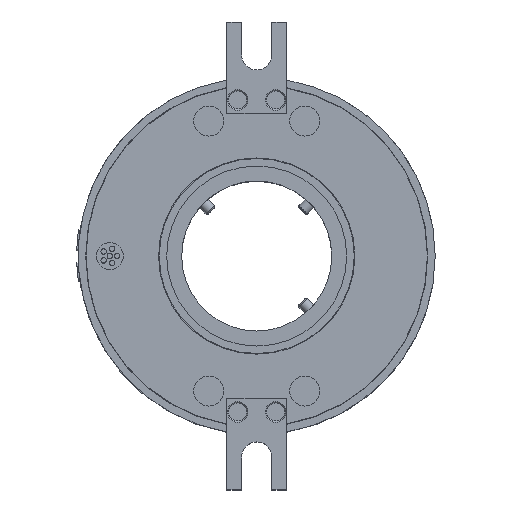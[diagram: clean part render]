
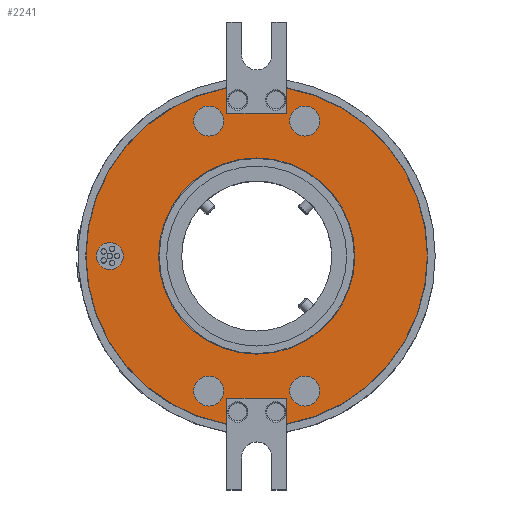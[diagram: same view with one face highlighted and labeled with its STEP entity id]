
A CAD part, top view. The second image highlights one B-rep face of the part: STEP entity #2241.
In plain terms, the highlighted planar face has unit normal (0, 0, 1).
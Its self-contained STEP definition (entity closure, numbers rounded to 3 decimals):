
#208=FACE_BOUND('',#4000,.T.);
#209=FACE_BOUND('',#4001,.T.);
#210=FACE_BOUND('',#4002,.T.);
#211=FACE_BOUND('',#4003,.T.);
#212=FACE_BOUND('',#4004,.T.);
#213=FACE_BOUND('',#4005,.T.);
#214=FACE_BOUND('',#4006,.T.);
#500=CIRCLE('',#13488,56.9);
#501=CIRCLE('',#13489,56.9);
#502=CIRCLE('',#13490,32.7);
#503=CIRCLE('',#13491,5.);
#504=CIRCLE('',#13492,5.);
#505=CIRCLE('',#13493,4.5);
#506=CIRCLE('',#13494,5.);
#507=CIRCLE('',#13495,5.);
#1055=LINE('',#25105,#1565);
#1056=LINE('',#25108,#1566);
#1057=LINE('',#25110,#1567);
#1058=LINE('',#25114,#1568);
#1059=LINE('',#25116,#1569);
#1060=LINE('',#25118,#1570);
#1565=VECTOR('',#14940,1.);
#1566=VECTOR('',#14941,1.);
#1567=VECTOR('',#14942,1.);
#1568=VECTOR('',#14945,1.);
#1569=VECTOR('',#14946,1.);
#1570=VECTOR('',#14947,1.);
#2241=ADVANCED_FACE('',(#208,#209,#210,#211,#212,#213,#214),#2747,.T.);
#2747=PLANE('',#13496);
#4000=EDGE_LOOP('',(#6768,#6769,#6770,#6771,#6772,#6773,#6774,#6775));
#4001=EDGE_LOOP('',(#6776));
#4002=EDGE_LOOP('',(#6777));
#4003=EDGE_LOOP('',(#6778));
#4004=EDGE_LOOP('',(#6779));
#4005=EDGE_LOOP('',(#6780));
#4006=EDGE_LOOP('',(#6781));
#6768=ORIENTED_EDGE('',*,*,#10951,.F.);
#6769=ORIENTED_EDGE('',*,*,#10952,.F.);
#6770=ORIENTED_EDGE('',*,*,#10953,.F.);
#6771=ORIENTED_EDGE('',*,*,#10954,.F.);
#6772=ORIENTED_EDGE('',*,*,#10955,.F.);
#6773=ORIENTED_EDGE('',*,*,#10956,.F.);
#6774=ORIENTED_EDGE('',*,*,#10957,.F.);
#6775=ORIENTED_EDGE('',*,*,#10958,.F.);
#6776=ORIENTED_EDGE('',*,*,#10959,.F.);
#6777=ORIENTED_EDGE('',*,*,#10960,.T.);
#6778=ORIENTED_EDGE('',*,*,#10961,.T.);
#6779=ORIENTED_EDGE('',*,*,#10962,.T.);
#6780=ORIENTED_EDGE('',*,*,#10963,.T.);
#6781=ORIENTED_EDGE('',*,*,#10964,.T.);
#9205=VERTEX_POINT('',#25106);
#9206=VERTEX_POINT('',#25107);
#9207=VERTEX_POINT('',#25109);
#9208=VERTEX_POINT('',#25111);
#9209=VERTEX_POINT('',#25113);
#9210=VERTEX_POINT('',#25115);
#9211=VERTEX_POINT('',#25117);
#9212=VERTEX_POINT('',#25119);
#9213=VERTEX_POINT('',#25122);
#9214=VERTEX_POINT('',#25124);
#9215=VERTEX_POINT('',#25126);
#9216=VERTEX_POINT('',#25128);
#9217=VERTEX_POINT('',#25130);
#9218=VERTEX_POINT('',#25132);
#10951=EDGE_CURVE('',#9205,#9206,#1055,.T.);
#10952=EDGE_CURVE('',#9207,#9205,#1056,.T.);
#10953=EDGE_CURVE('',#9208,#9207,#1057,.T.);
#10954=EDGE_CURVE('',#9209,#9208,#500,.T.);
#10955=EDGE_CURVE('',#9210,#9209,#1058,.T.);
#10956=EDGE_CURVE('',#9211,#9210,#1059,.T.);
#10957=EDGE_CURVE('',#9212,#9211,#1060,.T.);
#10958=EDGE_CURVE('',#9206,#9212,#501,.T.);
#10959=EDGE_CURVE('',#9213,#9213,#502,.T.);
#10960=EDGE_CURVE('',#9214,#9214,#503,.T.);
#10961=EDGE_CURVE('',#9215,#9215,#504,.T.);
#10962=EDGE_CURVE('',#9216,#9216,#505,.T.);
#10963=EDGE_CURVE('',#9217,#9217,#506,.T.);
#10964=EDGE_CURVE('',#9218,#9218,#507,.T.);
#13488=AXIS2_PLACEMENT_3D('',#25112,#14943,#14944);
#13489=AXIS2_PLACEMENT_3D('',#25120,#14948,#14949);
#13490=AXIS2_PLACEMENT_3D('',#25121,#14950,#14951);
#13491=AXIS2_PLACEMENT_3D('',#25123,#14952,#14953);
#13492=AXIS2_PLACEMENT_3D('',#25125,#14954,#14955);
#13493=AXIS2_PLACEMENT_3D('',#25127,#14956,#14957);
#13494=AXIS2_PLACEMENT_3D('',#25129,#14958,#14959);
#13495=AXIS2_PLACEMENT_3D('',#25131,#14960,#14961);
#13496=AXIS2_PLACEMENT_3D('',#25133,#14962,#14963);
#14940=DIRECTION('',(0.,-1.,0.));
#14941=DIRECTION('',(-1.,0.,0.));
#14942=DIRECTION('',(0.,1.,0.));
#14943=DIRECTION('',(0.,0.,-1.));
#14944=DIRECTION('',(1.,0.,0.));
#14945=DIRECTION('',(0.,1.,0.));
#14946=DIRECTION('',(1.,0.,0.));
#14947=DIRECTION('',(0.,-1.,0.));
#14948=DIRECTION('',(0.,0.,-1.));
#14949=DIRECTION('',(1.,0.,0.));
#14950=DIRECTION('',(0.,0.,1.));
#14951=DIRECTION('',(1.,0.,0.));
#14952=DIRECTION('',(0.,0.,-1.));
#14953=DIRECTION('',(1.,0.,0.));
#14954=DIRECTION('',(0.,0.,-1.));
#14955=DIRECTION('',(1.,0.,0.));
#14956=DIRECTION('',(0.,0.,-1.));
#14957=DIRECTION('',(1.,0.,0.));
#14958=DIRECTION('',(0.,0.,-1.));
#14959=DIRECTION('',(-1.,0.,0.));
#14960=DIRECTION('',(0.,0.,-1.));
#14961=DIRECTION('',(-1.,0.,0.));
#14962=DIRECTION('',(0.,0.,1.));
#14963=DIRECTION('',(1.,0.,0.));
#25105=CARTESIAN_POINT('',(-10.,-62.75,63.5));
#25106=CARTESIAN_POINT('',(-10.,-47.5,63.5));
#25107=CARTESIAN_POINT('',(-10.,-56.014,63.5));
#25108=CARTESIAN_POINT('',(0.,-47.5,63.5));
#25109=CARTESIAN_POINT('',(10.,-47.5,63.5));
#25110=CARTESIAN_POINT('',(10.,-62.75,63.5));
#25111=CARTESIAN_POINT('',(10.,-56.014,63.5));
#25112=CARTESIAN_POINT('',(0.,0.,63.5));
#25113=CARTESIAN_POINT('',(10.,56.014,63.5));
#25114=CARTESIAN_POINT('',(10.,62.75,63.5));
#25115=CARTESIAN_POINT('',(10.,47.5,63.5));
#25116=CARTESIAN_POINT('',(0.,47.5,63.5));
#25117=CARTESIAN_POINT('',(-10.,47.5,63.5));
#25118=CARTESIAN_POINT('',(-10.,62.75,63.5));
#25119=CARTESIAN_POINT('',(-10.,56.014,63.5));
#25120=CARTESIAN_POINT('',(0.,0.,63.5));
#25121=CARTESIAN_POINT('',(0.,0.,63.5));
#25122=CARTESIAN_POINT('',(32.7,0.,63.5));
#25123=CARTESIAN_POINT('',(16.,-45.,63.5));
#25124=CARTESIAN_POINT('',(21.,-45.,63.5));
#25125=CARTESIAN_POINT('',(-16.,-45.,63.5));
#25126=CARTESIAN_POINT('',(-11.,-45.,63.5));
#25127=CARTESIAN_POINT('',(-49.,0.,63.5));
#25128=CARTESIAN_POINT('',(-44.5,0.,63.5));
#25129=CARTESIAN_POINT('',(16.,45.,63.5));
#25130=CARTESIAN_POINT('',(11.,45.,63.5));
#25131=CARTESIAN_POINT('',(-16.,45.,63.5));
#25132=CARTESIAN_POINT('',(-21.,45.,63.5));
#25133=CARTESIAN_POINT('',(0.,0.,63.5));
